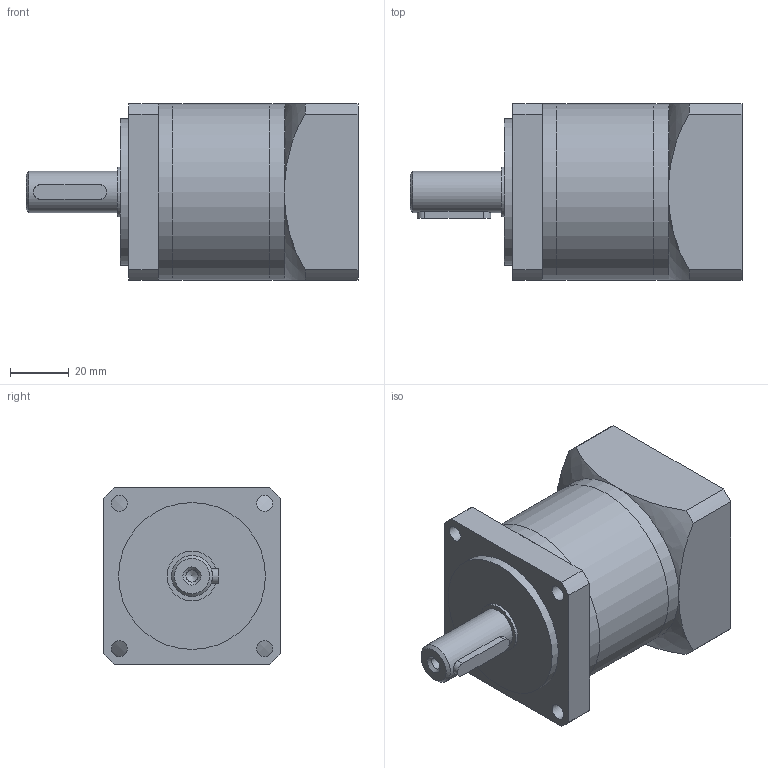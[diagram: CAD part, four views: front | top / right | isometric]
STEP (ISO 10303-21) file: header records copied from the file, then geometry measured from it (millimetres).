
FILE_DESCRIPTION(('STEP AP214'), '1');
FILE_NAME('Ðåäóêòîð ïëàíåòàðíûé 60PLF10K-14S-D14', '', ('UNSPECIFIED'), ('UNSPECIFIED'), 'C3D Converter', 'C3D Toolkit', '');
FILE_SCHEMA(('AUTOMOTIVE_DESIGN { 1 0 10303 214 3 1 1}'));
Length unit declared in the file: millimetre
Assembly tree (1 placements, depth 2):
  (unnamed)
    (unnamed)
Bounding box: 113 x 60 x 60 mm (x, y, z)
Volume: 213959.3 mm3; surface area: 35476.6 mm2
Topology: 3 solids, 3 shells, 103 faces, 232 edges, 143 vertices
Faces by surface type: plane 46, cylinder 37, cone 15, torus 5
Full cylindrical faces by diameter (mm): 3 x1, 4 x1, 4.134 x5, 5.5 x4, 7 x1, 8 x1, 14 x1, 17 x1, 48 x1, 50 x2, 60 x3
Entity records: 4339 total; most frequent: CARTESIAN_POINT 1445, DIRECTION 467, ORIENTED_EDGE 374, AXIS2_PLACEMENT_3D 195, EDGE_CURVE 187, EDGE_LOOP 159, VERTEX_POINT 136, ADVANCED_FACE 103
